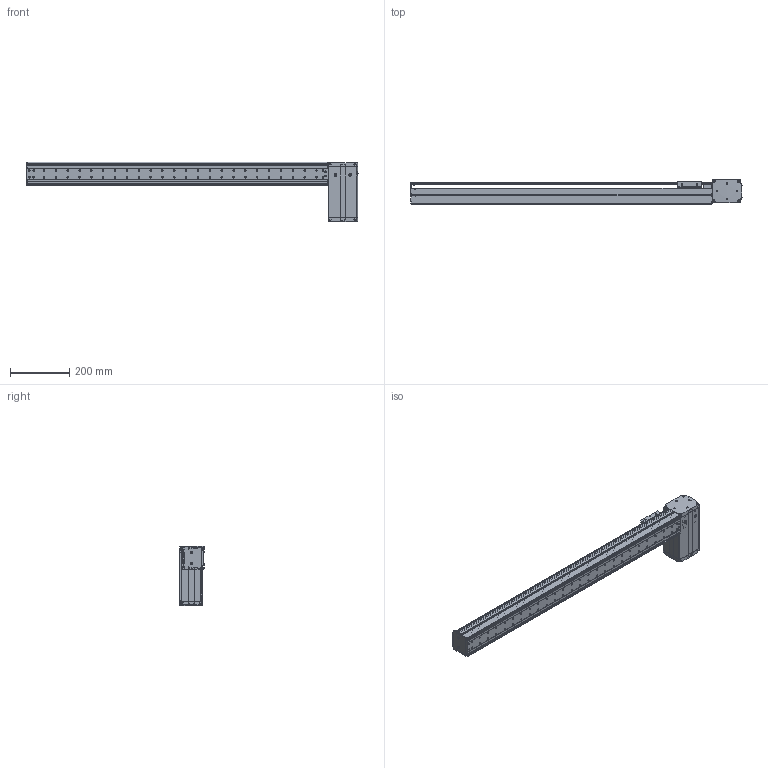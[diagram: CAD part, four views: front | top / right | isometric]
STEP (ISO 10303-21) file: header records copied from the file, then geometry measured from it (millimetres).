
FILE_DESCRIPTION((''),'2;1');
FILE_NAME('BE10_-BL-S_N-85_IGS_PRT','2017-06-18T',(' '),(''),'PRO/ENGINEER BY PARAMETRIC TECHNOLOGY CORPORATION, 2015030','PRO/ENGINEER BY PARAMETRIC TECHNOLOGY CORPORATION, 2015030','');
FILE_SCHEMA(('CONFIG_CONTROL_DESIGN'));
Products named in the file (1): BE10_-BL-S_N-85_IGS_PRT
Bounding box: 1120.8 x 82.5 x 200.22 mm (x, y, z)
Volume: 1371468.2 mm3; surface area: 985938.7 mm2
Topology: 3 solids, 138 shells, 2058 faces, 5627 edges, 3709 vertices
Faces by surface type: plane 993, cylinder 902, cone 103, sphere 30, torus 27, bspline 3
Entity records: 67054 total; most frequent: CARTESIAN_POINT 13725, DIRECTION 11316, ORIENTED_EDGE 10682, EDGE_CURVE 5573, AXIS2_PLACEMENT_3D 4047, VERTEX_POINT 3709, VECTOR 3222, LINE 3222
